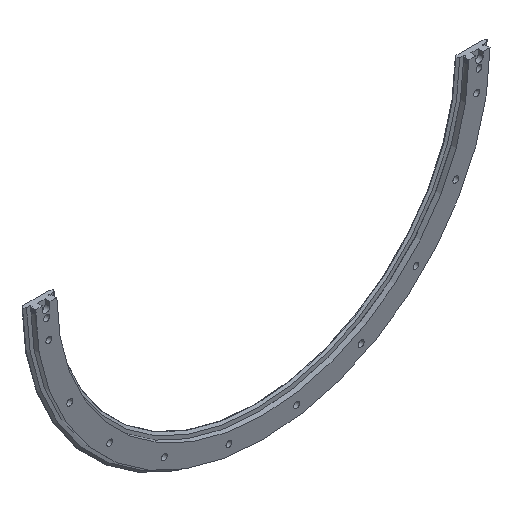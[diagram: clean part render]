
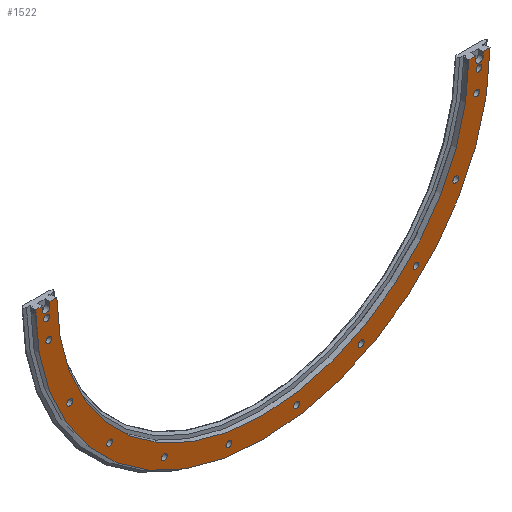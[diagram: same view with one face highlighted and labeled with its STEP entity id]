
A CAD part, isometric view. The second image highlights one B-rep face of the part: STEP entity #1522.
In plain terms, the highlighted planar face has unit normal (0, -1, 0).
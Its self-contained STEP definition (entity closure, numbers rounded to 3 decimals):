
#76=LINE('',#2286,#188);
#77=LINE('',#2288,#189);
#78=LINE('',#2292,#190);
#79=LINE('',#2294,#191);
#80=LINE('',#2298,#192);
#81=LINE('',#2300,#193);
#82=LINE('',#2304,#194);
#83=LINE('',#2306,#195);
#188=VECTOR('',#1833,1000.);
#189=VECTOR('',#1834,1000.);
#190=VECTOR('',#1837,1000.);
#191=VECTOR('',#1838,1000.);
#192=VECTOR('',#1841,1000.);
#193=VECTOR('',#1842,1000.);
#194=VECTOR('',#1845,1000.);
#195=VECTOR('',#1846,1000.);
#300=ORIENTED_EDGE('',*,*,#700,.F.);
#301=ORIENTED_EDGE('',*,*,#701,.F.);
#302=ORIENTED_EDGE('',*,*,#702,.F.);
#303=ORIENTED_EDGE('',*,*,#703,.F.);
#304=ORIENTED_EDGE('',*,*,#704,.F.);
#305=ORIENTED_EDGE('',*,*,#705,.F.);
#306=ORIENTED_EDGE('',*,*,#706,.F.);
#307=ORIENTED_EDGE('',*,*,#707,.F.);
#308=ORIENTED_EDGE('',*,*,#708,.F.);
#309=ORIENTED_EDGE('',*,*,#709,.F.);
#310=ORIENTED_EDGE('',*,*,#710,.F.);
#311=ORIENTED_EDGE('',*,*,#711,.F.);
#312=ORIENTED_EDGE('',*,*,#712,.T.);
#313=ORIENTED_EDGE('',*,*,#713,.T.);
#314=ORIENTED_EDGE('',*,*,#714,.T.);
#315=ORIENTED_EDGE('',*,*,#715,.F.);
#316=ORIENTED_EDGE('',*,*,#716,.T.);
#317=ORIENTED_EDGE('',*,*,#717,.T.);
#318=ORIENTED_EDGE('',*,*,#718,.T.);
#319=ORIENTED_EDGE('',*,*,#719,.T.);
#320=ORIENTED_EDGE('',*,*,#720,.T.);
#321=ORIENTED_EDGE('',*,*,#721,.T.);
#322=ORIENTED_EDGE('',*,*,#722,.T.);
#323=ORIENTED_EDGE('',*,*,#723,.T.);
#700=EDGE_CURVE('',#900,#900,#1052,.T.);
#701=EDGE_CURVE('',#901,#901,#1053,.T.);
#702=EDGE_CURVE('',#902,#902,#1054,.T.);
#703=EDGE_CURVE('',#903,#903,#1055,.T.);
#704=EDGE_CURVE('',#904,#904,#1056,.T.);
#705=EDGE_CURVE('',#905,#905,#1057,.T.);
#706=EDGE_CURVE('',#906,#906,#1058,.T.);
#707=EDGE_CURVE('',#907,#907,#1059,.T.);
#708=EDGE_CURVE('',#908,#908,#1060,.T.);
#709=EDGE_CURVE('',#909,#909,#1061,.T.);
#710=EDGE_CURVE('',#910,#910,#1062,.T.);
#711=EDGE_CURVE('',#911,#911,#1063,.T.);
#712=EDGE_CURVE('',#912,#913,#1064,.T.);
#713=EDGE_CURVE('',#913,#914,#76,.T.);
#714=EDGE_CURVE('',#914,#915,#77,.T.);
#715=EDGE_CURVE('',#916,#915,#1065,.T.);
#716=EDGE_CURVE('',#916,#917,#78,.T.);
#717=EDGE_CURVE('',#917,#918,#79,.T.);
#718=EDGE_CURVE('',#918,#919,#1066,.T.);
#719=EDGE_CURVE('',#919,#920,#80,.T.);
#720=EDGE_CURVE('',#920,#921,#81,.T.);
#721=EDGE_CURVE('',#921,#922,#1067,.T.);
#722=EDGE_CURVE('',#922,#923,#82,.T.);
#723=EDGE_CURVE('',#923,#912,#83,.T.);
#900=VERTEX_POINT('',#2260);
#901=VERTEX_POINT('',#2262);
#902=VERTEX_POINT('',#2264);
#903=VERTEX_POINT('',#2266);
#904=VERTEX_POINT('',#2268);
#905=VERTEX_POINT('',#2270);
#906=VERTEX_POINT('',#2272);
#907=VERTEX_POINT('',#2274);
#908=VERTEX_POINT('',#2276);
#909=VERTEX_POINT('',#2278);
#910=VERTEX_POINT('',#2280);
#911=VERTEX_POINT('',#2282);
#912=VERTEX_POINT('',#2284);
#913=VERTEX_POINT('',#2285);
#914=VERTEX_POINT('',#2287);
#915=VERTEX_POINT('',#2289);
#916=VERTEX_POINT('',#2291);
#917=VERTEX_POINT('',#2293);
#918=VERTEX_POINT('',#2295);
#919=VERTEX_POINT('',#2297);
#920=VERTEX_POINT('',#2299);
#921=VERTEX_POINT('',#2301);
#922=VERTEX_POINT('',#2303);
#923=VERTEX_POINT('',#2305);
#1052=CIRCLE('',#1634,7.);
#1053=CIRCLE('',#1635,7.);
#1054=CIRCLE('',#1636,7.);
#1055=CIRCLE('',#1637,7.);
#1056=CIRCLE('',#1638,7.);
#1057=CIRCLE('',#1639,7.);
#1058=CIRCLE('',#1640,7.);
#1059=CIRCLE('',#1641,7.);
#1060=CIRCLE('',#1642,7.);
#1061=CIRCLE('',#1643,7.);
#1062=CIRCLE('',#1644,7.);
#1063=CIRCLE('',#1645,7.);
#1064=CIRCLE('',#1646,9.);
#1065=CIRCLE('',#1647,491.25);
#1066=CIRCLE('',#1648,9.);
#1067=CIRCLE('',#1649,541.75);
#1124=EDGE_LOOP('',(#300));
#1125=EDGE_LOOP('',(#301));
#1126=EDGE_LOOP('',(#302));
#1127=EDGE_LOOP('',(#303));
#1128=EDGE_LOOP('',(#304));
#1129=EDGE_LOOP('',(#305));
#1130=EDGE_LOOP('',(#306));
#1131=EDGE_LOOP('',(#307));
#1132=EDGE_LOOP('',(#308));
#1133=EDGE_LOOP('',(#309));
#1134=EDGE_LOOP('',(#310));
#1135=EDGE_LOOP('',(#311));
#1136=EDGE_LOOP('',(#312,#313,#314,#315,#316,#317,#318,#319,#320,#321,#322,
#323));
#1294=FACE_BOUND('',#1124,.T.);
#1295=FACE_BOUND('',#1125,.T.);
#1296=FACE_BOUND('',#1126,.T.);
#1297=FACE_BOUND('',#1127,.T.);
#1298=FACE_BOUND('',#1128,.T.);
#1299=FACE_BOUND('',#1129,.T.);
#1300=FACE_BOUND('',#1130,.T.);
#1301=FACE_BOUND('',#1131,.T.);
#1302=FACE_BOUND('',#1132,.T.);
#1303=FACE_BOUND('',#1133,.T.);
#1304=FACE_BOUND('',#1134,.T.);
#1305=FACE_BOUND('',#1135,.T.);
#1306=FACE_BOUND('',#1136,.T.);
#1464=PLANE('',#1633);
#1522=ADVANCED_FACE('',(#1294,#1295,#1296,#1297,#1298,#1299,#1300,#1301,
#1302,#1303,#1304,#1305,#1306),#1464,.T.);
#1633=AXIS2_PLACEMENT_3D('',#2258,#1805,#1806);
#1634=AXIS2_PLACEMENT_3D('',#2259,#1807,#1808);
#1635=AXIS2_PLACEMENT_3D('',#2261,#1809,#1810);
#1636=AXIS2_PLACEMENT_3D('',#2263,#1811,#1812);
#1637=AXIS2_PLACEMENT_3D('',#2265,#1813,#1814);
#1638=AXIS2_PLACEMENT_3D('',#2267,#1815,#1816);
#1639=AXIS2_PLACEMENT_3D('',#2269,#1817,#1818);
#1640=AXIS2_PLACEMENT_3D('',#2271,#1819,#1820);
#1641=AXIS2_PLACEMENT_3D('',#2273,#1821,#1822);
#1642=AXIS2_PLACEMENT_3D('',#2275,#1823,#1824);
#1643=AXIS2_PLACEMENT_3D('',#2277,#1825,#1826);
#1644=AXIS2_PLACEMENT_3D('',#2279,#1827,#1828);
#1645=AXIS2_PLACEMENT_3D('',#2281,#1829,#1830);
#1646=AXIS2_PLACEMENT_3D('',#2283,#1831,#1832);
#1647=AXIS2_PLACEMENT_3D('',#2290,#1835,#1836);
#1648=AXIS2_PLACEMENT_3D('',#2296,#1839,#1840);
#1649=AXIS2_PLACEMENT_3D('',#2302,#1843,#1844);
#1805=DIRECTION('',(0.,-1.,0.));
#1806=DIRECTION('',(0.,0.,-1.));
#1807=DIRECTION('',(0.,-1.,0.));
#1808=DIRECTION('',(0.,0.,-1.));
#1809=DIRECTION('',(0.,-1.,0.));
#1810=DIRECTION('',(0.,0.,-1.));
#1811=DIRECTION('',(0.,-1.,0.));
#1812=DIRECTION('',(0.,0.,-1.));
#1813=DIRECTION('',(0.,-1.,0.));
#1814=DIRECTION('',(0.,0.,-1.));
#1815=DIRECTION('',(0.,-1.,0.));
#1816=DIRECTION('',(0.,0.,-1.));
#1817=DIRECTION('',(0.,-1.,0.));
#1818=DIRECTION('',(0.,0.,-1.));
#1819=DIRECTION('',(0.,-1.,0.));
#1820=DIRECTION('',(0.,0.,-1.));
#1821=DIRECTION('',(0.,-1.,0.));
#1822=DIRECTION('',(0.,0.,-1.));
#1823=DIRECTION('',(0.,-1.,0.));
#1824=DIRECTION('',(0.,0.,-1.));
#1825=DIRECTION('',(0.,-1.,0.));
#1826=DIRECTION('',(0.,0.,-1.));
#1827=DIRECTION('',(0.,-1.,0.));
#1828=DIRECTION('',(0.,0.,-1.));
#1829=DIRECTION('',(0.,-1.,0.));
#1830=DIRECTION('',(0.,0.,-1.));
#1831=DIRECTION('',(0.,1.,0.));
#1832=DIRECTION('',(1.,0.,0.));
#1833=DIRECTION('',(0.,0.,1.));
#1834=DIRECTION('',(-1.,0.,0.));
#1835=DIRECTION('',(0.,-1.,0.));
#1836=DIRECTION('',(0.,0.,-1.));
#1837=DIRECTION('',(-1.,0.,0.));
#1838=DIRECTION('',(0.,0.,-1.));
#1839=DIRECTION('',(0.,1.,0.));
#1840=DIRECTION('',(1.,0.,0.));
#1841=DIRECTION('',(0.,0.,1.));
#1842=DIRECTION('',(-1.,0.,0.));
#1843=DIRECTION('',(0.,-1.,0.));
#1844=DIRECTION('',(0.,0.,-1.));
#1845=DIRECTION('',(-1.,0.,0.));
#1846=DIRECTION('',(0.,0.,-1.));
#2258=CARTESIAN_POINT('',(-491.25,0.,0.));
#2259=CARTESIAN_POINT('',(-515.476,0.,-32.503));
#2260=CARTESIAN_POINT('',(-515.476,0.,-39.503));
#2261=CARTESIAN_POINT('',(515.476,0.,-32.503));
#2262=CARTESIAN_POINT('',(515.476,0.,-39.503));
#2263=CARTESIAN_POINT('',(-460.205,0.,-234.486));
#2264=CARTESIAN_POINT('',(-460.205,0.,-241.486));
#2265=CARTESIAN_POINT('',(-365.221,0.,-365.221));
#2266=CARTESIAN_POINT('',(-365.221,0.,-372.221));
#2267=CARTESIAN_POINT('',(-234.486,0.,-460.205));
#2268=CARTESIAN_POINT('',(-234.486,0.,-467.205));
#2269=CARTESIAN_POINT('',(460.205,0.,-234.486));
#2270=CARTESIAN_POINT('',(460.205,0.,-241.486));
#2271=CARTESIAN_POINT('',(365.221,0.,-365.221));
#2272=CARTESIAN_POINT('',(365.221,0.,-372.221));
#2273=CARTESIAN_POINT('',(234.486,0.,-460.205));
#2274=CARTESIAN_POINT('',(234.486,0.,-467.205));
#2275=CARTESIAN_POINT('',(510.141,0.,-80.798));
#2276=CARTESIAN_POINT('',(510.141,0.,-87.798));
#2277=CARTESIAN_POINT('',(80.798,0.,-510.141));
#2278=CARTESIAN_POINT('',(80.798,0.,-517.141));
#2279=CARTESIAN_POINT('',(-510.141,0.,-80.798));
#2280=CARTESIAN_POINT('',(-510.141,0.,-87.798));
#2281=CARTESIAN_POINT('',(-80.798,0.,-510.141));
#2282=CARTESIAN_POINT('',(-80.798,0.,-517.141));
#2283=CARTESIAN_POINT('',(516.5,0.,-12.5));
#2284=CARTESIAN_POINT('',(525.5,0.,-12.5));
#2285=CARTESIAN_POINT('',(507.5,0.,-12.5));
#2286=CARTESIAN_POINT('',(507.5,0.,-12.5));
#2287=CARTESIAN_POINT('',(507.5,0.,-2.5));
#2288=CARTESIAN_POINT('',(554.87,0.,-2.5));
#2289=CARTESIAN_POINT('',(491.244,0.,-2.5));
#2290=CARTESIAN_POINT('',(0.,0.,0.));
#2291=CARTESIAN_POINT('',(-491.244,0.,-2.5));
#2292=CARTESIAN_POINT('',(554.87,0.,-2.5));
#2293=CARTESIAN_POINT('',(-507.5,0.,-2.5));
#2294=CARTESIAN_POINT('',(-507.5,0.,0.));
#2295=CARTESIAN_POINT('',(-507.5,0.,-12.5));
#2296=CARTESIAN_POINT('',(-516.5,0.,-12.5));
#2297=CARTESIAN_POINT('',(-525.5,0.,-12.5));
#2298=CARTESIAN_POINT('',(-525.5,0.,-12.5));
#2299=CARTESIAN_POINT('',(-525.5,0.,-2.5));
#2300=CARTESIAN_POINT('',(554.87,0.,-2.5));
#2301=CARTESIAN_POINT('',(-541.744,0.,-2.5));
#2302=CARTESIAN_POINT('',(0.,0.,0.));
#2303=CARTESIAN_POINT('',(541.744,0.,-2.5));
#2304=CARTESIAN_POINT('',(554.87,0.,-2.5));
#2305=CARTESIAN_POINT('',(525.5,0.,-2.5));
#2306=CARTESIAN_POINT('',(525.5,0.,0.));
